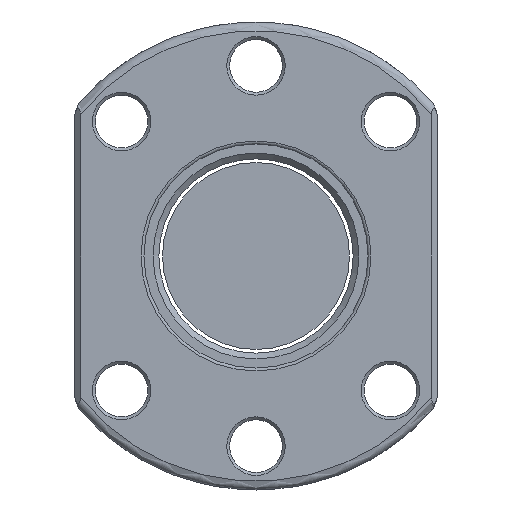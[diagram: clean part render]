
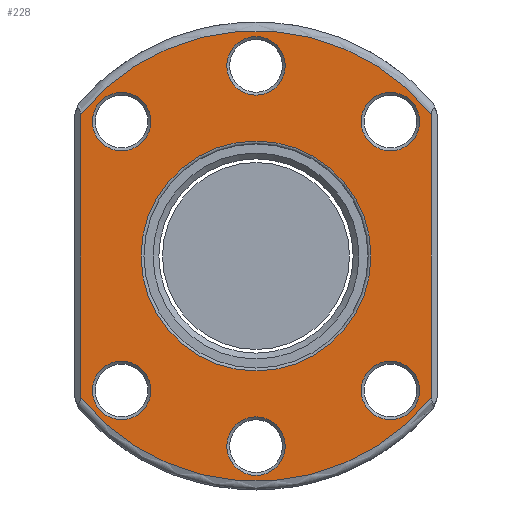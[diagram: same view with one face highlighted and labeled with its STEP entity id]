
A CAD part, front view. The second image highlights one B-rep face of the part: STEP entity #228.
In plain terms, the highlighted planar face has unit normal (0, -1, 0).
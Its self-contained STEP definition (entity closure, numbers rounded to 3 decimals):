
#53=LINE('',#1600,#77);
#54=LINE('',#1604,#78);
#77=VECTOR('',#1325,1.);
#78=VECTOR('',#1328,1.);
#165=PLANE('',#1088);
#228=ADVANCED_FACE('',(#343,#344,#345,#346,#347,#348,#349,#350),#165,.F.);
#343=FACE_BOUND('',#463,.T.);
#344=FACE_BOUND('',#464,.T.);
#345=FACE_BOUND('',#465,.T.);
#346=FACE_BOUND('',#466,.T.);
#347=FACE_BOUND('',#467,.T.);
#348=FACE_BOUND('',#468,.T.);
#349=FACE_BOUND('',#469,.T.);
#350=FACE_BOUND('',#470,.T.);
#463=EDGE_LOOP('',(#610));
#464=EDGE_LOOP('',(#611));
#465=EDGE_LOOP('',(#612));
#466=EDGE_LOOP('',(#613));
#467=EDGE_LOOP('',(#614));
#468=EDGE_LOOP('',(#615));
#469=EDGE_LOOP('',(#616));
#470=EDGE_LOOP('',(#617,#618,#619,#620));
#610=ORIENTED_EDGE('',*,*,#889,.T.);
#611=ORIENTED_EDGE('',*,*,#890,.T.);
#612=ORIENTED_EDGE('',*,*,#891,.T.);
#613=ORIENTED_EDGE('',*,*,#892,.T.);
#614=ORIENTED_EDGE('',*,*,#893,.T.);
#615=ORIENTED_EDGE('',*,*,#894,.T.);
#616=ORIENTED_EDGE('',*,*,#895,.T.);
#617=ORIENTED_EDGE('',*,*,#896,.T.);
#618=ORIENTED_EDGE('',*,*,#897,.T.);
#619=ORIENTED_EDGE('',*,*,#898,.T.);
#620=ORIENTED_EDGE('',*,*,#899,.T.);
#800=VERTEX_POINT('',#1584);
#801=VERTEX_POINT('',#1586);
#802=VERTEX_POINT('',#1588);
#803=VERTEX_POINT('',#1590);
#804=VERTEX_POINT('',#1592);
#805=VERTEX_POINT('',#1594);
#806=VERTEX_POINT('',#1596);
#807=VERTEX_POINT('',#1598);
#808=VERTEX_POINT('',#1599);
#809=VERTEX_POINT('',#1601);
#810=VERTEX_POINT('',#1603);
#889=EDGE_CURVE('',#800,#800,#980,.T.);
#890=EDGE_CURVE('',#801,#801,#981,.T.);
#891=EDGE_CURVE('',#802,#802,#982,.T.);
#892=EDGE_CURVE('',#803,#803,#983,.T.);
#893=EDGE_CURVE('',#804,#804,#984,.T.);
#894=EDGE_CURVE('',#805,#805,#985,.T.);
#895=EDGE_CURVE('',#806,#806,#986,.T.);
#896=EDGE_CURVE('',#807,#808,#987,.T.);
#897=EDGE_CURVE('',#808,#809,#53,.T.);
#898=EDGE_CURVE('',#809,#810,#988,.T.);
#899=EDGE_CURVE('',#810,#807,#54,.T.);
#980=CIRCLE('',#1079,5.);
#981=CIRCLE('',#1080,5.);
#982=CIRCLE('',#1081,5.);
#983=CIRCLE('',#1082,5.);
#984=CIRCLE('',#1083,5.);
#985=CIRCLE('',#1084,5.);
#986=CIRCLE('',#1085,19.65);
#987=CIRCLE('',#1086,38.5);
#988=CIRCLE('',#1087,38.5);
#1079=AXIS2_PLACEMENT_3D('',#1583,#1309,#1310);
#1080=AXIS2_PLACEMENT_3D('',#1585,#1311,#1312);
#1081=AXIS2_PLACEMENT_3D('',#1587,#1313,#1314);
#1082=AXIS2_PLACEMENT_3D('',#1589,#1315,#1316);
#1083=AXIS2_PLACEMENT_3D('',#1591,#1317,#1318);
#1084=AXIS2_PLACEMENT_3D('',#1593,#1319,#1320);
#1085=AXIS2_PLACEMENT_3D('',#1595,#1321,#1322);
#1086=AXIS2_PLACEMENT_3D('',#1597,#1323,#1324);
#1087=AXIS2_PLACEMENT_3D('',#1602,#1326,#1327);
#1088=AXIS2_PLACEMENT_3D('',#1605,#1329,#1330);
#1309=DIRECTION('',(0.,1.,0.));
#1310=DIRECTION('',(0.,0.,1.));
#1311=DIRECTION('',(0.,1.,0.));
#1312=DIRECTION('',(0.,0.,1.));
#1313=DIRECTION('',(0.,1.,0.));
#1314=DIRECTION('',(0.,0.,1.));
#1315=DIRECTION('',(0.,1.,0.));
#1316=DIRECTION('',(0.,0.,1.));
#1317=DIRECTION('',(0.,1.,0.));
#1318=DIRECTION('',(0.,0.,1.));
#1319=DIRECTION('',(0.,1.,0.));
#1320=DIRECTION('',(0.,0.,1.));
#1321=DIRECTION('',(0.,1.,0.));
#1322=DIRECTION('',(0.,0.,1.));
#1323=DIRECTION('',(0.,-1.,0.));
#1324=DIRECTION('',(0.,0.,1.));
#1325=DIRECTION('',(0.,0.,-1.));
#1326=DIRECTION('',(0.,-1.,0.));
#1327=DIRECTION('',(0.,0.,1.));
#1328=DIRECTION('',(0.,0.,1.));
#1329=DIRECTION('',(0.,1.,0.));
#1330=DIRECTION('',(0.,0.,1.));
#1583=CARTESIAN_POINT('',(-22.981,0.,-22.981));
#1584=CARTESIAN_POINT('',(-22.981,0.,-17.981));
#1585=CARTESIAN_POINT('',(0.,0.,-32.5));
#1586=CARTESIAN_POINT('',(0.,0.,-27.5));
#1587=CARTESIAN_POINT('',(22.981,0.,22.981));
#1588=CARTESIAN_POINT('',(22.981,0.,27.981));
#1589=CARTESIAN_POINT('',(22.981,0.,-22.981));
#1590=CARTESIAN_POINT('',(22.981,0.,-17.981));
#1591=CARTESIAN_POINT('',(0.,0.,32.5));
#1592=CARTESIAN_POINT('',(0.,0.,37.5));
#1593=CARTESIAN_POINT('',(-22.981,0.,22.981));
#1594=CARTESIAN_POINT('',(-22.981,0.,27.981));
#1595=CARTESIAN_POINT('',(0.,0.,0.));
#1596=CARTESIAN_POINT('',(0.,0.,19.65));
#1597=CARTESIAN_POINT('',(0.,0.,0.));
#1598=CARTESIAN_POINT('',(30.,0.,24.13));
#1599=CARTESIAN_POINT('',(-30.,0.,24.13));
#1600=CARTESIAN_POINT('',(-30.,0.,0.));
#1601=CARTESIAN_POINT('',(-30.,0.,-24.13));
#1602=CARTESIAN_POINT('',(0.,0.,0.));
#1603=CARTESIAN_POINT('',(30.,0.,-24.13));
#1604=CARTESIAN_POINT('',(30.,0.,0.));
#1605=CARTESIAN_POINT('',(0.,0.,0.));
